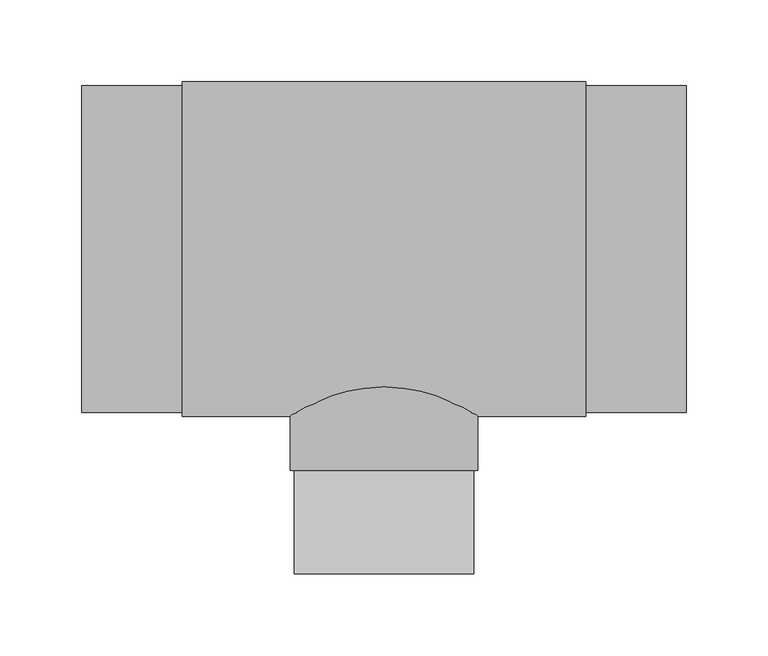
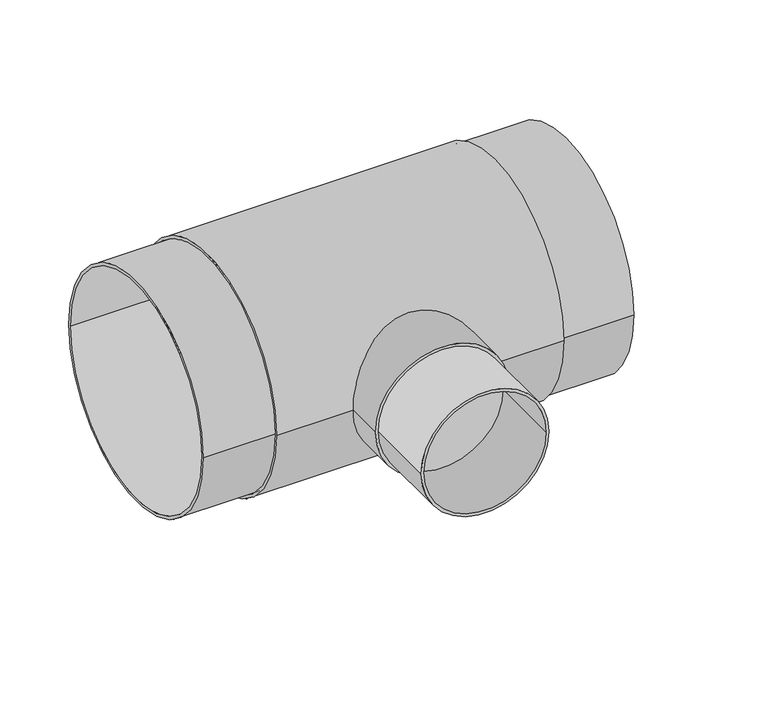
"""IFC4 building model written with IfcOpenShell, lengths in millimetres: pipe fitting geometry, EGB_VASEN_ PPR_Te a tope WXRB300_Te reducida a tope WXRB310 : Te a tope."""

import ifcopenshell
import ifcopenshell.guid

model = None  # the IFC model being written
_history = None  # IfcOwnerHistory: only IFC2X3 demands one
_inside = {}  # id of a spatial element -> (the spatial element, [elements in it])
_under = {}  # id of a project, library or spatial element -> (it, [spatial elements below it])
_declared = {}  # id of a project -> (the project, [libraries it declares])
_typed = {}  # id of a type object -> (the type object, [elements of that type])
_made_of = {}  # id of a material, layer set ... -> (it, [elements and type objects made of it])


def new_model(schema):
    """Start an empty IFC model of exactly this schema.

    Asked for "IFC4X3", IfcOpenShell would pick the latest addendum, in which some entities
    have other attributes; the version numbers below select the first issue.
    IFC2X3 requires an IfcOwnerHistory on every rooted entity: one is made here for all.
    """
    global model, _history
    if schema == "IFC4X3":
        model = ifcopenshell.file(schema_version=(4, 3, 0, 0))
    else:
        model = ifcopenshell.file(schema=schema)
    _inside.clear()
    _under.clear()
    _declared.clear()
    _typed.clear()
    _made_of.clear()
    _history = None
    if model.schema == "IFC2X3":
        org = make("IfcOrganization", Name="unknown")
        user = make(
            "IfcPersonAndOrganization",
            ThePerson=make("IfcPerson", FamilyName="unknown"),
            TheOrganization=org,
        )
        app = make(
            "IfcApplication",
            ApplicationDeveloper=org,
            Version="unknown",
            ApplicationFullName="unknown",
            ApplicationIdentifier="unknown",
        )
        _history = make(
            "IfcOwnerHistory",
            OwningUser=user,
            OwningApplication=app,
            ChangeAction="ADDED",
            CreationDate=0,
        )
    return model


def make(cls, **values):
    """One entity of the class cls with the attributes given. An attribute that is None is left unset."""
    return model.create_entity(
        cls, **{name: value for name, value in values.items() if value is not None}
    )


def rooted(cls, **values):
    """An entity with a GlobalId (a new one), such as an element, a storey or a relation."""
    return make(cls, GlobalId=ifcopenshell.guid.new(), OwnerHistory=_history, **values)


def si_unit(unit_type, name, prefix=None):
    """IfcSIUnit, for example si_unit("LENGTHUNIT", "METRE", prefix="MILLI")."""
    return make("IfcSIUnit", UnitType=unit_type, Prefix=prefix, Name=name)


def assignment(units):
    """IfcUnitAssignment: the units of a project."""
    return None if units is None else make("IfcUnitAssignment", Units=units)


def point(xyz):
    """IfcCartesianPoint."""
    return None if xyz is None else make("IfcCartesianPoint", Coordinates=xyz)


def direction(xyz):
    """IfcDirection."""
    return None if xyz is None else make("IfcDirection", DirectionRatios=xyz)


def frame(location, z_axis=None, x_axis=None):
    """IfcAxis2Placement3D, a coordinate frame: its origin and axes. An axis left out is left unset."""
    return make(
        "IfcAxis2Placement3D",
        Location=point(location),
        Axis=direction(z_axis),
        RefDirection=direction(x_axis),
    )


def frame_2d(location, x_axis=None):
    """IfcAxis2Placement2D, a coordinate frame in the plane: its origin and x axis."""
    return make(
        "IfcAxis2Placement2D", Location=point(location), RefDirection=direction(x_axis)
    )


def origin():
    """The frame at (0, 0, 0) with its axes left unset."""
    return frame((0.0, 0.0, 0.0))


def origin_2d():
    """The frame at (0, 0) in the plane with its x axis left unset."""
    return frame_2d((0.0, 0.0))


def place(relative_to, where):
    """IfcLocalPlacement: puts the frame where relative to a parent placement (None: the world)."""
    return make(
        "IfcLocalPlacement", PlacementRelTo=relative_to, RelativePlacement=where
    )


def context(
    kind, dimensions, precision=None, world=None, true_north=None, identifier=None
):
    """IfcGeometricRepresentationContext, for example the 3D "Model" context."""
    return make(
        "IfcGeometricRepresentationContext",
        ContextIdentifier=identifier,
        ContextType=kind,
        CoordinateSpaceDimension=dimensions,
        Precision=precision,
        WorldCoordinateSystem=world,
        TrueNorth=true_north,
    )


def project(units=None, contexts=None):
    """IfcProject with its units and contexts."""
    return rooted(
        "IfcProject",
        Name="project",
        RepresentationContexts=contexts,
        UnitsInContext=assignment(units),
    )


def spatial(cls, under=None, at=None, **own):
    """A site, building, storey or space (cls), placed at a placement, below another one or the project."""
    s = rooted(cls, ObjectPlacement=at, **own)
    if under is not None:
        _under.setdefault(under.id(), (under, []))[1].append(s)
    return s


def circle_curve(where, radius):
    """IfcCircle in the frame where."""
    return make("IfcCircle", Position=where, Radius=radius)


def trimmed(basis, trim1, trim2, sense, master):
    """IfcTrimmedCurve: the piece of a basis curve between two trims."""
    return make(
        "IfcTrimmedCurve",
        BasisCurve=basis,
        Trim1=trim1,
        Trim2=trim2,
        SenseAgreement=sense,
        MasterRepresentation=master,
    )


def segment(curve, same_sense, transition):
    """IfcCompositeCurveSegment."""
    return make(
        "IfcCompositeCurveSegment",
        Transition=transition,
        SameSense=same_sense,
        ParentCurve=curve,
    )


def composite_curve(segments, self_intersect=None):
    """IfcCompositeCurve: segments joined end to end."""
    return make("IfcCompositeCurve", Segments=segments, SelfIntersect=self_intersect)


def outline(outer, holes=None, kind="AREA"):
    """IfcArbitraryClosedProfileDef: a profile drawn as a closed curve; with holes, ...WithVoids."""
    if holes is None:
        return make("IfcArbitraryClosedProfileDef", ProfileType=kind, OuterCurve=outer)
    return make(
        "IfcArbitraryProfileDefWithVoids",
        ProfileType=kind,
        OuterCurve=outer,
        InnerCurves=holes,
    )


def extrude(swept, where, along, depth):
    """IfcExtrudedAreaSolid: the profile swept, set in the frame where, extruded along a direction by depth."""
    return make(
        "IfcExtrudedAreaSolid",
        SweptArea=swept,
        Position=where,
        ExtrudedDirection=direction(along),
        Depth=depth,
    )


def shape(context_of_items, identifier, shape_type, items):
    """IfcShapeRepresentation: the items that make up one representation, for example the "Body"."""
    return make(
        "IfcShapeRepresentation",
        ContextOfItems=context_of_items,
        RepresentationIdentifier=identifier,
        RepresentationType=shape_type,
        Items=items,
    )


def source(mapping_origin, context_of_items, identifier, shape_type, items):
    """IfcRepresentationMap: a shape defined once, which mapped items show again and again."""
    return make(
        "IfcRepresentationMap",
        MappingOrigin=mapping_origin,
        MappedRepresentation=shape(context_of_items, identifier, shape_type, items),
    )


def transform(
    local_origin,
    x_axis=None,
    y_axis=None,
    z_axis=None,
    scale=None,
    scale2=None,
    scale3=None,
    uniform=True,
):
    """IfcCartesianTransformationOperator3D, or its non-uniform kind. x_axis, y_axis, z_axis: its Axis1, 2, 3."""
    if uniform:
        return make(
            "IfcCartesianTransformationOperator3D",
            Axis1=direction(x_axis),
            Axis2=direction(y_axis),
            LocalOrigin=point(local_origin),
            Scale=scale,
            Axis3=direction(z_axis),
        )
    return make(
        "IfcCartesianTransformationOperator3DnonUniform",
        Axis1=direction(x_axis),
        Axis2=direction(y_axis),
        LocalOrigin=point(local_origin),
        Scale=scale,
        Axis3=direction(z_axis),
        Scale2=scale2,
        Scale3=scale3,
    )


def mapped(mapping_source, mapping_target):
    """IfcMappedItem: shows the shape of a source again, moved by a transform."""
    return make(
        "IfcMappedItem", MappingSource=mapping_source, MappingTarget=mapping_target
    )


def made_of(thing, what):
    """Note that an element or type object is made of a material, layer set ...; save() writes the relation."""
    if what is not None:
        _made_of.setdefault(what.id(), (what, []))[1].append(thing)
    return thing


def element(
    cls,
    number,
    at=None,
    inside=None,
    cuts=None,
    type_object=None,
    material=None,
    context=None,
    identifier="Body",
    shape_type=None,
    held_by="IfcProductDefinitionShape",
    body=None,
    shapes=None,
    **own,
):
    """One element of the class cls, such as IfcWall. Its Tag is "e" and its number.

    at: its placement. inside: the storey or other place that contains it. cuts: it is an
    opening in that element (IfcRelVoidsElement). A single representation is given by context,
    identifier, shape_type and body (its items); several are given by shapes. held_by: the class
    of the entity that holds the representations. save() writes the other relations.
    """
    e = rooted(cls, Tag="e%d" % number, ObjectPlacement=at, **own)
    if body is not None:
        shapes = [shape(context, identifier, shape_type, body)]
    if shapes is not None:
        e.Representation = make(held_by, Representations=shapes)
    if inside is not None:
        _inside.setdefault(inside.id(), (inside, []))[1].append(e)
    if cuts is not None:
        rooted(
            "IfcRelVoidsElement", RelatingBuildingElement=cuts, RelatedOpeningElement=e
        )
    if type_object is not None:
        _typed.setdefault(type_object.id(), (type_object, []))[1].append(e)
    return made_of(e, material)


def aggregate(whole, parts):
    """IfcRelAggregates: a whole, such as a stair, and the parts it consists of."""
    return rooted("IfcRelAggregates", RelatingObject=whole, RelatedObjects=parts)


def save(model, path):
    """Write the relations noted so far, then the file.

    IfcRelAggregates (storeys below a building ...), IfcRelContainedInSpatialStructure (elements
    in a storey), IfcRelDefinesByType, IfcRelAssociatesMaterial and IfcRelDeclares: one each for
    every whole, place, type object, material and project.
    """
    for whole, parts in _under.values():
        aggregate(whole, parts)
    for where, things in _inside.values():
        rooted(
            "IfcRelContainedInSpatialStructure",
            RelatedElements=things,
            RelatingStructure=where,
        )
    for kind, things in _typed.values():
        rooted("IfcRelDefinesByType", RelatedObjects=things, RelatingType=kind)
    for what, things in _made_of.values():
        rooted("IfcRelAssociatesMaterial", RelatedObjects=things, RelatingMaterial=what)
    for by, libraries in _declared.values():
        rooted("IfcRelDeclares", RelatingContext=by, RelatedDefinitions=libraries)
    model.write(path)


def pipe_fitting_736b4e14(model_context):
    return source(origin(), model_context, "Body", "SweptSolid", [
        extrude(outline(composite_curve([segment(trimmed(circle_curve(origin_2d(), 55.0), [point((0.0, 55.0))], [point((0.0, -55.0))], False, "CARTESIAN"), True, "CONTINUOUS"), segment(trimmed(circle_curve(origin_2d(), 55.0), [point((0.0, -55.0))], [point((0.0, 55.0))], False, "CARTESIAN"), True, "CONTINUOUS")], self_intersect=False), holes=[composite_curve([segment(trimmed(circle_curve(origin_2d(), 52.5), [point((0.0, 52.5))], [point((0.0, -52.5))], True, "CARTESIAN"), True, "CONTINUOUS"), segment(trimmed(circle_curve(origin_2d(), 52.5), [point((0.0, -52.5))], [point((0.0, 52.5))], True, "CARTESIAN"), True, "CONTINUOUS")], self_intersect=False)]), frame((0.0, -199.0, 0.0), z_axis=(0.0, 1.0, 0.0), x_axis=(0.0, 0.0, 1.0)), (0.0, 0.0, 1.0), 63.5),
        extrude(outline(composite_curve([segment(trimmed(circle_curve(origin_2d(), 57.5), [point((0.0, 57.5))], [point((0.0, -57.5))], False, "CARTESIAN"), True, "CONTINUOUS"), segment(trimmed(circle_curve(origin_2d(), 57.5), [point((0.0, -57.5))], [point((0.0, 57.5))], False, "CARTESIAN"), True, "CONTINUOUS")], self_intersect=False)), frame((0.0, -135.5, 0.0), z_axis=(0.0, 1.0, 0.0), x_axis=(0.0, 0.0, 1.0)), (0.0, 0.0, 1.0), 135.5),
        extrude(outline(composite_curve([segment(trimmed(circle_curve(origin_2d(), 102.5), [point((-102.5, 0.0))], [point((102.5, 0.0))], False, "CARTESIAN"), True, "CONTINUOUS"), segment(trimmed(circle_curve(origin_2d(), 102.5), [point((102.5, 0.0))], [point((-102.5, 0.0))], False, "CARTESIAN"), True, "CONTINUOUS")], self_intersect=False), holes=[composite_curve([segment(trimmed(circle_curve(origin_2d(), 100.0), [point((-100.0, 0.0))], [point((100.0, 0.0))], True, "CARTESIAN"), True, "CONTINUOUS"), segment(trimmed(circle_curve(origin_2d(), 100.0), [point((100.0, 0.0))], [point((-100.0, 0.0))], True, "CARTESIAN"), True, "CONTINUOUS")], self_intersect=False)]), frame((-123.3333333, 0.0, 0.0), z_axis=(1.0, 0.0, 0.0), x_axis=(0.0, 1.0, 0.0)), (0.0, 0.0, 1.0), 246.6666667),
        extrude(outline(composite_curve([segment(trimmed(circle_curve(origin_2d(), 100.0), [point((-100.0, 0.0))], [point((100.0, 0.0))], False, "CARTESIAN"), True, "CONTINUOUS"), segment(trimmed(circle_curve(origin_2d(), 100.0), [point((100.0, 0.0))], [point((-100.0, 0.0))], False, "CARTESIAN"), True, "CONTINUOUS")], self_intersect=False), holes=[composite_curve([segment(trimmed(circle_curve(origin_2d(), 97.5), [point((-97.5, 0.0))], [point((97.5, 0.0))], True, "CARTESIAN"), True, "CONTINUOUS"), segment(trimmed(circle_curve(origin_2d(), 97.5), [point((97.5, 0.0))], [point((-97.5, 0.0))], True, "CARTESIAN"), True, "CONTINUOUS")], self_intersect=False)]), frame((-185.0, 0.0, 0.0), z_axis=(1.0, 0.0, 0.0), x_axis=(0.0, 1.0, 0.0)), (0.0, 0.0, 1.0), 370.0),
    ])


if __name__ == "__main__":
    model = new_model("IFC4")
    model_context = context("Model", 3, world=origin())
    ifc_project = project(units=[si_unit("LENGTHUNIT", "METRE", prefix="MILLI")], contexts=[model_context])
    site = spatial("IfcSite", under=ifc_project)
    building = spatial("IfcBuilding", under=site)
    placement = place(None, origin())
    pipe_fitting_shape = pipe_fitting_736b4e14(model_context)
    element("IfcPipeFitting", 1, ObjectType="EGB_VASEN_ PPR_Te a tope WXRB300_Te reducida a tope WXRB310 : Te a tope", at=placement, inside=building, context=model_context, shape_type="MappedRepresentation", body=[
        mapped(pipe_fitting_shape, transform((0.0, 0.0, 0.0), x_axis=(1.0, 0.0, 0.0), y_axis=(0.0, 1.0, 0.0), z_axis=(0.0, 0.0, 1.0))),
    ])
    save(model, "model.ifc")
